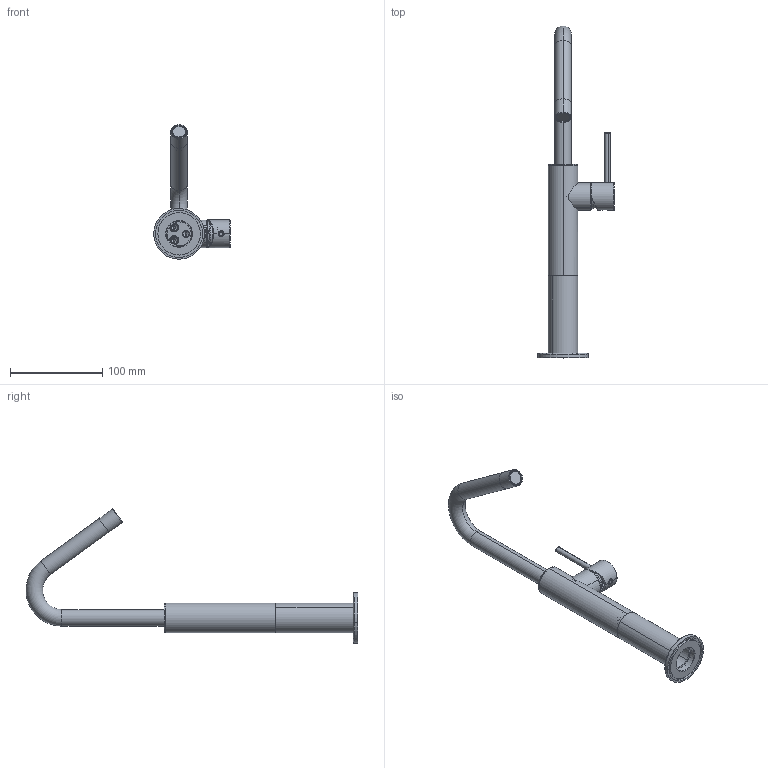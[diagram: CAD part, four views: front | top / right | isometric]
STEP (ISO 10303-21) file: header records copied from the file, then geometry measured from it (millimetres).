
FILE_DESCRIPTION (( 'STEP AP203' ), '1' );
FILE_NAME ('MME50.STEP', '2025-02-07T07:44:11', ( '' ), ( '' ), 'SwSTEP 2.0', 'SolidWorks 2024', '' );
FILE_SCHEMA (( 'CONFIG_CONTROL_DESIGN' ));
Length unit declared in the file: millimetre
Products named in the file (24): C13.00.0066.01; C24.0120.00.1; C24.0029.00.1; C24.0370.00.3; C24.0372.00.1; C24.1475.00.0; MME50; C24.2075.00.0; C24.0119.00.2; C11.14.0019; OR1052ACS; C23.0824.01; C21.0648.00.1; C12.00.0004; C11.14.0014; C19.11.0029.43; C47.00.0049.08; C24.0061.00.1; C47.00.0023.01; RC014NK; C24.0699.00.0; C21.0649.00.0; C12.00.0054; C10.00.0013
Assembly tree (25 placements, depth 3):
  MME50
    C11.14.0014
    C24.0061.00.1
    C19.11.0029.43
      C24.0370.00.3
      C24.2075.00.0
    C24.0029.00.1
    C24.0372.00.1
    C24.0119.00.2
    C24.0120.00.1
    C10.00.0013
    C23.0824.01
    C24.0699.00.0
    C21.0648.00.1
    C21.0649.00.0  x2
    C12.00.0054  x2
    C47.00.0023.01
    C11.14.0019
    C12.00.0004
    C24.1475.00.0
    C47.00.0049.08
      OR1052ACS
      RC014NK
    C13.00.0066.01
Bounding box: 83.01 x 359.89 x 145.73 mm (x, y, z)
Volume: 121788.7 mm3; surface area: 111446.6 mm2
Topology: 22 solids, 32 shells, 1123 faces, 3040 edges, 1960 vertices
Faces by surface type: cylinder 426, plane 331, cone 202, bspline 86, torus 78
Entity records: 42004 total; most frequent: CARTESIAN_POINT 13116, DIRECTION 5404, ORIENTED_EDGE 5400, EDGE_CURVE 2930, AXIS2_PLACEMENT_3D 2143, VERTEX_POINT 1912, EDGE_LOOP 1196, LINE 1118
